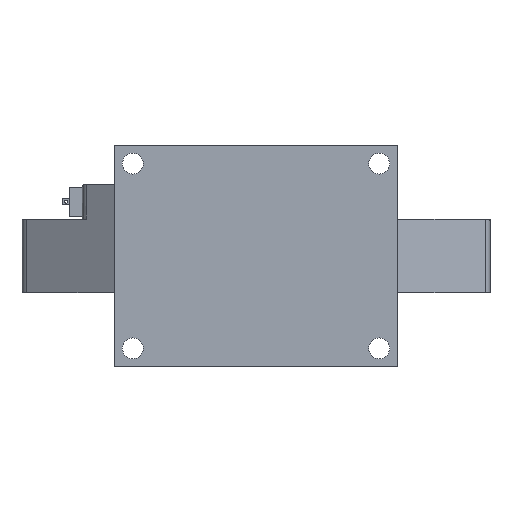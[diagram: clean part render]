
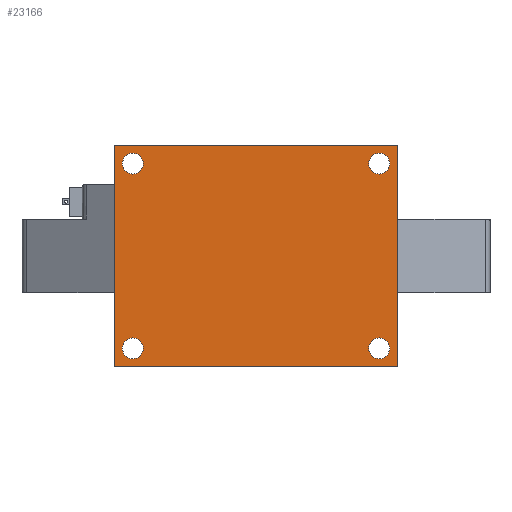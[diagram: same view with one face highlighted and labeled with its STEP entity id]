
A CAD part, front view. The second image highlights one B-rep face of the part: STEP entity #23166.
In plain terms, the highlighted planar face has unit normal (0, -1, 0).
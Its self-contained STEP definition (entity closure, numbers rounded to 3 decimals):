
#821 = DIRECTION ( 'NONE',  ( 0., 0., 1. ) ) ;
#986 = PLANE ( 'NONE',  #2142 ) ;
#1004 = EDGE_LOOP ( 'NONE', ( #18021, #26188 ) ) ;
#1692 = DIRECTION ( 'NONE',  ( 0., 0., 1. ) ) ;
#1717 = VERTEX_POINT ( 'NONE', #22652 ) ;
#1836 = VERTEX_POINT ( 'NONE', #23462 ) ;
#1944 = DIRECTION ( 'NONE',  ( 0., 1., 0. ) ) ;
#2142 = AXIS2_PLACEMENT_3D ( 'NONE', #2890, #24373, #24629 ) ;
#2240 = CARTESIAN_POINT ( 'NONE',  ( -50., -10., 37.5 ) ) ;
#2284 = FACE_OUTER_BOUND ( 'NONE', #4684, .T. ) ;
#2620 = VERTEX_POINT ( 'NONE', #23247 ) ;
#2625 = FACE_BOUND ( 'NONE', #27169, .T. ) ;
#2783 = ORIENTED_EDGE ( 'NONE', *, *, #13481, .F. ) ;
#2890 = CARTESIAN_POINT ( 'NONE',  ( 0., -10., 0. ) ) ;
#3048 = EDGE_CURVE ( 'NONE', #19947, #18613, #23468, .T. ) ;
#3257 = CARTESIAN_POINT ( 'NONE',  ( 50., -10., -37.5 ) ) ;
#3668 = EDGE_CURVE ( 'NONE', #2620, #14627, #17914, .T. ) ;
#4028 = CARTESIAN_POINT ( 'NONE',  ( 50., -10., -37.5 ) ) ;
#4684 = EDGE_LOOP ( 'NONE', ( #16524, #17165, #5661, #2783 ) ) ;
#4770 = CIRCLE ( 'NONE', #22210, 4.25 ) ;
#4908 = VECTOR ( 'NONE', #821, 1000. ) ;
#5405 = DIRECTION ( 'NONE',  ( 0., 1., 0. ) ) ;
#5661 = ORIENTED_EDGE ( 'NONE', *, *, #22550, .F. ) ;
#5790 = AXIS2_PLACEMENT_3D ( 'NONE', #2240, #14834, #19177 ) ;
#6026 = ORIENTED_EDGE ( 'NONE', *, *, #24415, .T. ) ;
#6109 = CARTESIAN_POINT ( 'NONE',  ( -57.5, -10., -45. ) ) ;
#6152 = ORIENTED_EDGE ( 'NONE', *, *, #20801, .T. ) ;
#6881 = AXIS2_PLACEMENT_3D ( 'NONE', #19256, #1944, #8304 ) ;
#6976 = EDGE_CURVE ( 'NONE', #12367, #27589, #24334, .T. ) ;
#7040 = AXIS2_PLACEMENT_3D ( 'NONE', #22050, #9162, #20142 ) ;
#7169 = LINE ( 'NONE', #7609, #20219 ) ;
#7311 = CARTESIAN_POINT ( 'NONE',  ( -57.5, -10., -45. ) ) ;
#7380 = AXIS2_PLACEMENT_3D ( 'NONE', #8145, #18716, #1692 ) ;
#7542 = DIRECTION ( 'NONE',  ( 0., 1., 0. ) ) ;
#7609 = CARTESIAN_POINT ( 'NONE',  ( -57.5, -10., -45. ) ) ;
#8092 = DIRECTION ( 'NONE',  ( 0., 0., -1. ) ) ;
#8145 = CARTESIAN_POINT ( 'NONE',  ( -50., -10., -37.5 ) ) ;
#8304 = DIRECTION ( 'NONE',  ( 0., 0., 1. ) ) ;
#8471 = CARTESIAN_POINT ( 'NONE',  ( -50., -10., 33.25 ) ) ;
#9118 = CIRCLE ( 'NONE', #20559, 4.25 ) ;
#9162 = DIRECTION ( 'NONE',  ( 0., 1., 0. ) ) ;
#9460 = EDGE_LOOP ( 'NONE', ( #25527, #17108 ) ) ;
#9737 = ORIENTED_EDGE ( 'NONE', *, *, #24036, .T. ) ;
#10036 = DIRECTION ( 'NONE',  ( 0., 0., -1. ) ) ;
#10385 = DIRECTION ( 'NONE',  ( 0., 0., -1. ) ) ;
#10949 = FACE_BOUND ( 'NONE', #1004, .T. ) ;
#11173 = DIRECTION ( 'NONE',  ( 1., 0., 0. ) ) ;
#11930 = CARTESIAN_POINT ( 'NONE',  ( 50., -10., 33.25 ) ) ;
#12053 = CARTESIAN_POINT ( 'NONE',  ( -50., -10., -33.25 ) ) ;
#12115 = LINE ( 'NONE', #16776, #19503 ) ;
#12367 = VERTEX_POINT ( 'NONE', #12053 ) ;
#12619 = FACE_BOUND ( 'NONE', #9460, .T. ) ;
#12909 = CARTESIAN_POINT ( 'NONE',  ( 50., -10., 37.5 ) ) ;
#13481 = EDGE_CURVE ( 'NONE', #1717, #13587, #7169, .T. ) ;
#13495 = AXIS2_PLACEMENT_3D ( 'NONE', #3257, #5405, #24899 ) ;
#13587 = VERTEX_POINT ( 'NONE', #6109 ) ;
#13658 = AXIS2_PLACEMENT_3D ( 'NONE', #20386, #7542, #10036 ) ;
#14627 = VERTEX_POINT ( 'NONE', #21178 ) ;
#14812 = VERTEX_POINT ( 'NONE', #18133 ) ;
#14834 = DIRECTION ( 'NONE',  ( 0., 1., 0. ) ) ;
#16055 = EDGE_LOOP ( 'NONE', ( #6026, #22252 ) ) ;
#16315 = EDGE_CURVE ( 'NONE', #18613, #19947, #26194, .T. ) ;
#16524 = ORIENTED_EDGE ( 'NONE', *, *, #24864, .F. ) ;
#16533 = CIRCLE ( 'NONE', #6881, 4.25 ) ;
#16600 = VERTEX_POINT ( 'NONE', #11930 ) ;
#16647 = FACE_BOUND ( 'NONE', #16055, .T. ) ;
#16668 = EDGE_CURVE ( 'NONE', #20439, #1836, #20418, .T. ) ;
#16776 = CARTESIAN_POINT ( 'NONE',  ( 57.5, -10., -45. ) ) ;
#17026 = DIRECTION ( 'NONE',  ( 0., 0., 1. ) ) ;
#17108 = ORIENTED_EDGE ( 'NONE', *, *, #3668, .T. ) ;
#17165 = ORIENTED_EDGE ( 'NONE', *, *, #16668, .F. ) ;
#17431 = CARTESIAN_POINT ( 'NONE',  ( -57.5, -10., 45. ) ) ;
#17914 = CIRCLE ( 'NONE', #13495, 4.25 ) ;
#18021 = ORIENTED_EDGE ( 'NONE', *, *, #16315, .T. ) ;
#18133 = CARTESIAN_POINT ( 'NONE',  ( 50., -10., 41.75 ) ) ;
#18185 = CARTESIAN_POINT ( 'NONE',  ( -50., -10., -41.75 ) ) ;
#18613 = VERTEX_POINT ( 'NONE', #8471 ) ;
#18716 = DIRECTION ( 'NONE',  ( 0., 1., 0. ) ) ;
#19177 = DIRECTION ( 'NONE',  ( 0., 0., -1. ) ) ;
#19256 = CARTESIAN_POINT ( 'NONE',  ( -50., -10., -37.5 ) ) ;
#19503 = VECTOR ( 'NONE', #8092, 1000. ) ;
#19947 = VERTEX_POINT ( 'NONE', #24212 ) ;
#20142 = DIRECTION ( 'NONE',  ( 0., 0., 1. ) ) ;
#20219 = VECTOR ( 'NONE', #24785, 1000. ) ;
#20386 = CARTESIAN_POINT ( 'NONE',  ( -50., -10., 37.5 ) ) ;
#20418 = LINE ( 'NONE', #26016, #22103 ) ;
#20439 = VERTEX_POINT ( 'NONE', #17431 ) ;
#20559 = AXIS2_PLACEMENT_3D ( 'NONE', #4028, #23196, #10385 ) ;
#20801 = EDGE_CURVE ( 'NONE', #16600, #14812, #4770, .T. ) ;
#21178 = CARTESIAN_POINT ( 'NONE',  ( 50., -10., -41.75 ) ) ;
#22050 = CARTESIAN_POINT ( 'NONE',  ( 50., -10., 37.5 ) ) ;
#22103 = VECTOR ( 'NONE', #11173, 1000. ) ;
#22210 = AXIS2_PLACEMENT_3D ( 'NONE', #12909, #23480, #17026 ) ;
#22252 = ORIENTED_EDGE ( 'NONE', *, *, #6976, .T. ) ;
#22550 = EDGE_CURVE ( 'NONE', #13587, #20439, #23371, .T. ) ;
#22652 = CARTESIAN_POINT ( 'NONE',  ( 57.5, -10., -45. ) ) ;
#23166 = ADVANCED_FACE ( 'NONE', ( #2284, #16647, #12619, #2625, #10949 ), #986, .F. ) ;
#23196 = DIRECTION ( 'NONE',  ( 0., 1., 0. ) ) ;
#23247 = CARTESIAN_POINT ( 'NONE',  ( 50., -10., -33.25 ) ) ;
#23371 = LINE ( 'NONE', #7311, #4908 ) ;
#23462 = CARTESIAN_POINT ( 'NONE',  ( 57.5, -10., 45. ) ) ;
#23468 = CIRCLE ( 'NONE', #13658, 4.25 ) ;
#23480 = DIRECTION ( 'NONE',  ( 0., 1., 0. ) ) ;
#24036 = EDGE_CURVE ( 'NONE', #14812, #16600, #24947, .T. ) ;
#24212 = CARTESIAN_POINT ( 'NONE',  ( -50., -10., 41.75 ) ) ;
#24334 = CIRCLE ( 'NONE', #7380, 4.25 ) ;
#24373 = DIRECTION ( 'NONE',  ( 0., 1., 0. ) ) ;
#24415 = EDGE_CURVE ( 'NONE', #27589, #12367, #16533, .T. ) ;
#24629 = DIRECTION ( 'NONE',  ( 0., 0., 1. ) ) ;
#24785 = DIRECTION ( 'NONE',  ( -1., 0., 0. ) ) ;
#24864 = EDGE_CURVE ( 'NONE', #1836, #1717, #12115, .T. ) ;
#24899 = DIRECTION ( 'NONE',  ( 0., 0., -1. ) ) ;
#24947 = CIRCLE ( 'NONE', #7040, 4.25 ) ;
#25527 = ORIENTED_EDGE ( 'NONE', *, *, #27800, .T. ) ;
#26016 = CARTESIAN_POINT ( 'NONE',  ( -57.5, -10., 45. ) ) ;
#26188 = ORIENTED_EDGE ( 'NONE', *, *, #3048, .T. ) ;
#26194 = CIRCLE ( 'NONE', #5790, 4.25 ) ;
#27169 = EDGE_LOOP ( 'NONE', ( #6152, #9737 ) ) ;
#27589 = VERTEX_POINT ( 'NONE', #18185 ) ;
#27800 = EDGE_CURVE ( 'NONE', #14627, #2620, #9118, .T. ) ;
